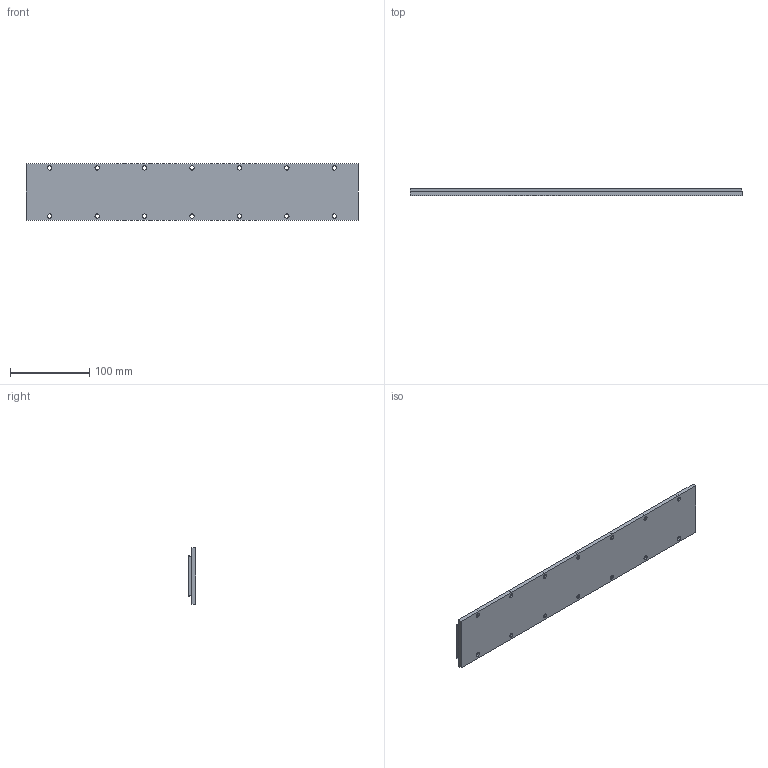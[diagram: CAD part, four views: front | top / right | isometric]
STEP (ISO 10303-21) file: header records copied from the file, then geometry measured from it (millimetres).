
FILE_DESCRIPTION (( 'STEP AP203' ), '1' );
FILE_NAME ('CM420.STEP', '2025-12-28T07:54:03', ( '' ), ( '' ), 'SwSTEP 2.0', 'SolidWorks 2024', '' );
FILE_SCHEMA (( 'CONFIG_CONTROL_DESIGN' ));
Length unit declared in the file: millimetre
Products named in the file (1): CM420
Bounding box: 420 x 9.2 x 72 mm (x, y, z)
Volume: 236114.9 mm3; surface area: 76915.1 mm2
Topology: 1 solids, 1 shells, 123 faces, 296 edges, 192 vertices
Faces by surface type: cylinder 60, plane 51, bspline 12
Entity records: 3959 total; most frequent: CARTESIAN_POINT 920, DIRECTION 616, ORIENTED_EDGE 592, EDGE_CURVE 296, AXIS2_PLACEMENT_3D 232, VERTEX_POINT 192, EDGE_LOOP 168, VECTOR 152
